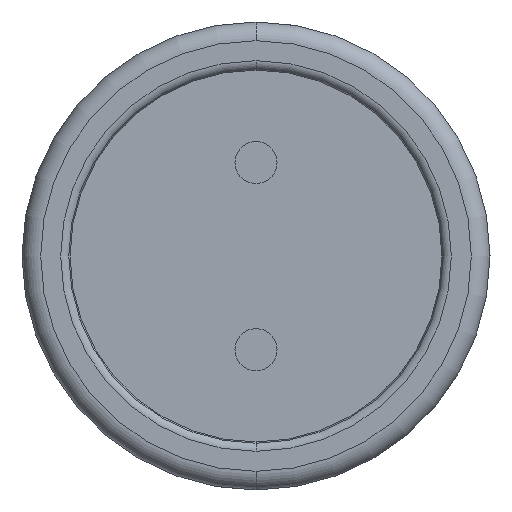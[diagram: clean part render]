
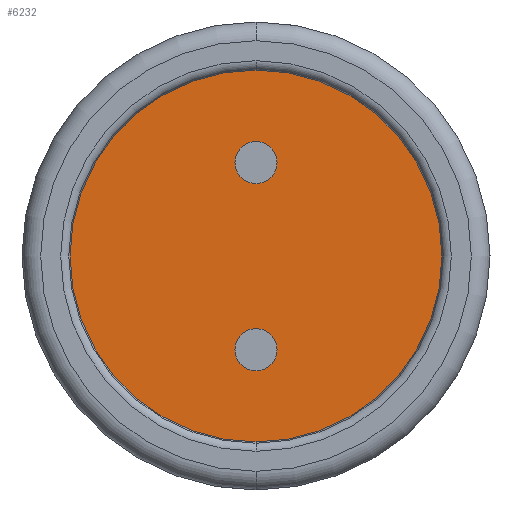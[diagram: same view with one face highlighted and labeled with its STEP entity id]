
A CAD part, left-side view. The second image highlights one B-rep face of the part: STEP entity #6232.
In plain terms, the highlighted planar face has unit normal (-1, 0, 0).
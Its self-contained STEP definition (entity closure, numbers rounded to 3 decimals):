
#40=CARTESIAN_POINT('',(-6.8,0.,0.002));
#41=DIRECTION('',(-1.,0.,0.));
#42=DIRECTION('',(0.,0.,-1.));
#43=AXIS2_PLACEMENT_3D('',#40,#41,#42);
#45=CARTESIAN_POINT('',(-6.8,0.,0.002));
#46=DIRECTION('',(1.,0.,0.));
#47=DIRECTION('',(0.,0.,-1.));
#48=AXIS2_PLACEMENT_3D('',#45,#46,#47);
#50=CARTESIAN_POINT('',(-6.8,0.,-1.));
#51=DIRECTION('',(-1.,0.,0.));
#52=DIRECTION('',(0.,0.,-1.));
#53=AXIS2_PLACEMENT_3D('',#50,#51,#52);
#55=CARTESIAN_POINT('',(-6.8,0.,-1.));
#56=DIRECTION('',(-1.,0.,0.));
#57=DIRECTION('',(0.,0.,1.));
#58=AXIS2_PLACEMENT_3D('',#55,#56,#57);
#60=CARTESIAN_POINT('',(-6.8,0.,1.));
#61=DIRECTION('',(-1.,0.,0.));
#62=DIRECTION('',(0.,0.,-1.));
#63=AXIS2_PLACEMENT_3D('',#60,#61,#62);
#65=CARTESIAN_POINT('',(-6.8,0.,1.));
#66=DIRECTION('',(-1.,0.,0.));
#67=DIRECTION('',(0.,0.,1.));
#68=AXIS2_PLACEMENT_3D('',#65,#66,#67);
#4683=CARTESIAN_POINT('',(-6.8,0.,-1.998));
#4684=VERTEX_POINT('',#4683);
#4685=CARTESIAN_POINT('',(-6.8,0.,2.002));
#4686=VERTEX_POINT('',#4685);
#4691=CARTESIAN_POINT('',(-6.8,0.,-1.225));
#4692=CARTESIAN_POINT('',(-6.8,0.,-0.775));
#4693=VERTEX_POINT('',#4691);
#4694=VERTEX_POINT('',#4692);
#4695=CARTESIAN_POINT('',(-6.8,0.,0.775));
#4696=CARTESIAN_POINT('',(-6.8,0.,1.225));
#4697=VERTEX_POINT('',#4695);
#4698=VERTEX_POINT('',#4696);
#6211=CARTESIAN_POINT('',(-6.8,0.,0.002));
#6212=DIRECTION('',(1.,0.,0.));
#6213=DIRECTION('',(0.,0.,1.));
#6214=AXIS2_PLACEMENT_3D('',#6211,#6212,#6213);
#6215=PLANE('',#6214);
#6216=ORIENTED_EDGE('',*,*,#6190,.F.);
#6217=ORIENTED_EDGE('',*,*,#6206,.T.);
#6218=EDGE_LOOP('',(#6216,#6217));
#6219=FACE_OUTER_BOUND('',#6218,.F.);
#6221=ORIENTED_EDGE('',*,*,#6220,.T.);
#6223=ORIENTED_EDGE('',*,*,#6222,.T.);
#6224=EDGE_LOOP('',(#6221,#6223));
#6225=FACE_BOUND('',#6224,.F.);
#6227=ORIENTED_EDGE('',*,*,#6226,.T.);
#6229=ORIENTED_EDGE('',*,*,#6228,.T.);
#6230=EDGE_LOOP('',(#6227,#6229));
#6231=FACE_BOUND('',#6230,.F.);
#6232=ADVANCED_FACE('',(#6219,#6225,#6231),#6215,.F.);
#44=CIRCLE('',#43,2.);
#49=CIRCLE('',#48,2.);
#54=CIRCLE('',#53,0.225);
#59=CIRCLE('',#58,0.225);
#64=CIRCLE('',#63,0.225);
#69=CIRCLE('',#68,0.225);
#6190=EDGE_CURVE('',#4684,#4686,#44,.T.);
#6206=EDGE_CURVE('',#4684,#4686,#49,.T.);
#6220=EDGE_CURVE('',#4693,#4694,#54,.T.);
#6222=EDGE_CURVE('',#4694,#4693,#59,.T.);
#6226=EDGE_CURVE('',#4697,#4698,#64,.T.);
#6228=EDGE_CURVE('',#4698,#4697,#69,.T.);
